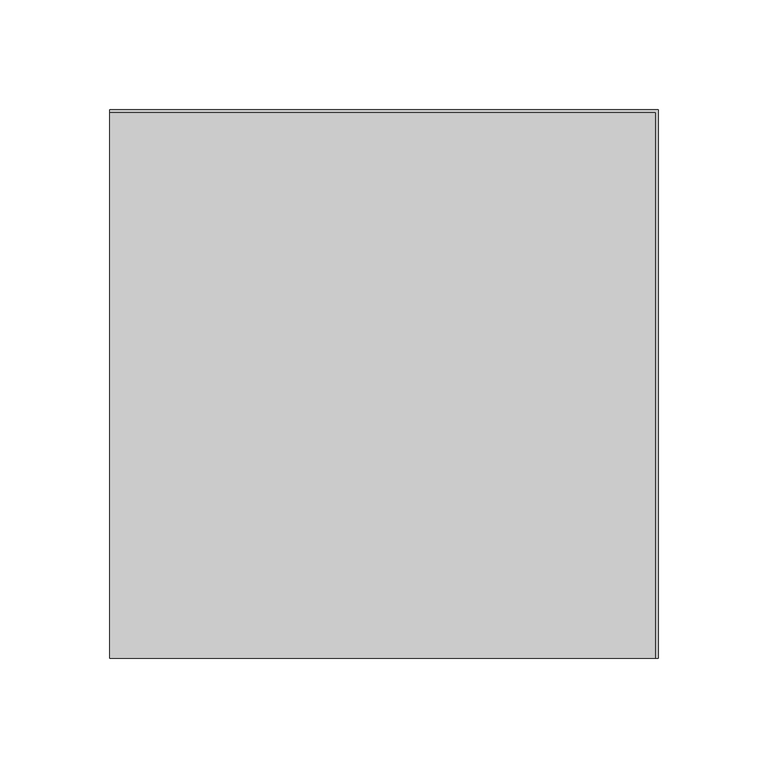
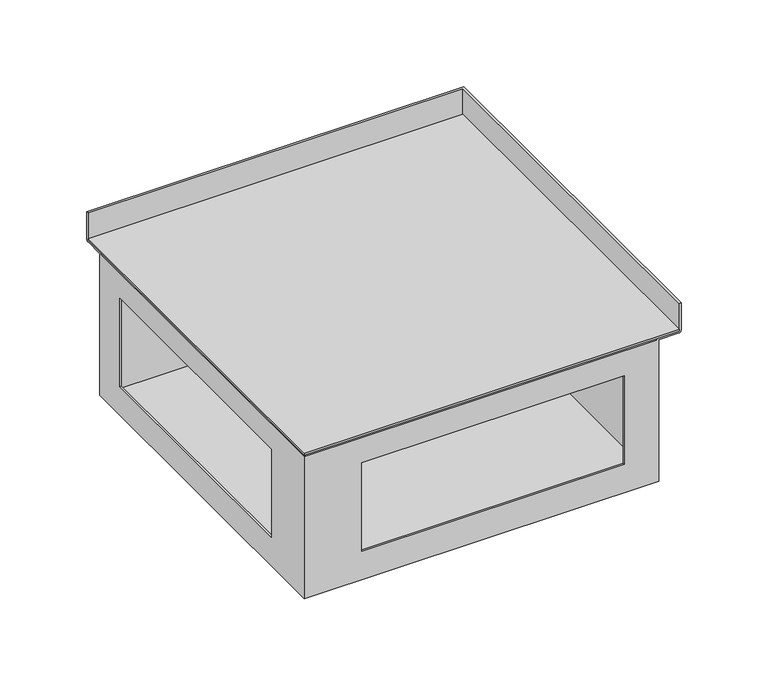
"""IFC4 building model written with IfcOpenShell, lengths in millimetres: proxy geometry, TECHNO_Угловой элемент_KVU : 250_120_90°."""

import ifcopenshell
import ifcopenshell.guid

model = None  # the IFC model being written
_history = None  # IfcOwnerHistory: only IFC2X3 demands one
_inside = {}  # id of a spatial element -> (the spatial element, [elements in it])
_under = {}  # id of a project, library or spatial element -> (it, [spatial elements below it])
_declared = {}  # id of a project -> (the project, [libraries it declares])
_typed = {}  # id of a type object -> (the type object, [elements of that type])
_made_of = {}  # id of a material, layer set ... -> (it, [elements and type objects made of it])


def new_model(schema):
    """Start an empty IFC model of exactly this schema.

    Asked for "IFC4X3", IfcOpenShell would pick the latest addendum, in which some entities
    have other attributes; the version numbers below select the first issue.
    IFC2X3 requires an IfcOwnerHistory on every rooted entity: one is made here for all.
    """
    global model, _history
    if schema == "IFC4X3":
        model = ifcopenshell.file(schema_version=(4, 3, 0, 0))
    else:
        model = ifcopenshell.file(schema=schema)
    _inside.clear()
    _under.clear()
    _declared.clear()
    _typed.clear()
    _made_of.clear()
    _history = None
    if model.schema == "IFC2X3":
        org = make("IfcOrganization", Name="unknown")
        user = make(
            "IfcPersonAndOrganization",
            ThePerson=make("IfcPerson", FamilyName="unknown"),
            TheOrganization=org,
        )
        app = make(
            "IfcApplication",
            ApplicationDeveloper=org,
            Version="unknown",
            ApplicationFullName="unknown",
            ApplicationIdentifier="unknown",
        )
        _history = make(
            "IfcOwnerHistory",
            OwningUser=user,
            OwningApplication=app,
            ChangeAction="ADDED",
            CreationDate=0,
        )
    return model


def make(cls, **values):
    """One entity of the class cls with the attributes given. An attribute that is None is left unset."""
    return model.create_entity(
        cls, **{name: value for name, value in values.items() if value is not None}
    )


def rooted(cls, **values):
    """An entity with a GlobalId (a new one), such as an element, a storey or a relation."""
    return make(cls, GlobalId=ifcopenshell.guid.new(), OwnerHistory=_history, **values)


def si_unit(unit_type, name, prefix=None):
    """IfcSIUnit, for example si_unit("LENGTHUNIT", "METRE", prefix="MILLI")."""
    return make("IfcSIUnit", UnitType=unit_type, Prefix=prefix, Name=name)


def assignment(units):
    """IfcUnitAssignment: the units of a project."""
    return None if units is None else make("IfcUnitAssignment", Units=units)


def point(xyz):
    """IfcCartesianPoint."""
    return None if xyz is None else make("IfcCartesianPoint", Coordinates=xyz)


def direction(xyz):
    """IfcDirection."""
    return None if xyz is None else make("IfcDirection", DirectionRatios=xyz)


def frame(location, z_axis=None, x_axis=None):
    """IfcAxis2Placement3D, a coordinate frame: its origin and axes. An axis left out is left unset."""
    return make(
        "IfcAxis2Placement3D",
        Location=point(location),
        Axis=direction(z_axis),
        RefDirection=direction(x_axis),
    )


def origin():
    """The frame at (0, 0, 0) with its axes left unset."""
    return frame((0.0, 0.0, 0.0))


def place(relative_to, where):
    """IfcLocalPlacement: puts the frame where relative to a parent placement (None: the world)."""
    return make(
        "IfcLocalPlacement", PlacementRelTo=relative_to, RelativePlacement=where
    )


def context(
    kind, dimensions, precision=None, world=None, true_north=None, identifier=None
):
    """IfcGeometricRepresentationContext, for example the 3D "Model" context."""
    return make(
        "IfcGeometricRepresentationContext",
        ContextIdentifier=identifier,
        ContextType=kind,
        CoordinateSpaceDimension=dimensions,
        Precision=precision,
        WorldCoordinateSystem=world,
        TrueNorth=true_north,
    )


def project(units=None, contexts=None):
    """IfcProject with its units and contexts."""
    return rooted(
        "IfcProject",
        Name="project",
        RepresentationContexts=contexts,
        UnitsInContext=assignment(units),
    )


def spatial(cls, under=None, at=None, **own):
    """A site, building, storey or space (cls), placed at a placement, below another one or the project."""
    s = rooted(cls, ObjectPlacement=at, **own)
    if under is not None:
        _under.setdefault(under.id(), (under, []))[1].append(s)
    return s


def polyline(points):
    """IfcPolyline through the points."""
    return make("IfcPolyline", Points=[point(p) for p in points])


def circle_curve(where, radius):
    """IfcCircle in the frame where."""
    return make("IfcCircle", Position=where, Radius=radius)


def ellipse_curve(where, semi_axis1, semi_axis2):
    """IfcEllipse in the frame where."""
    return make(
        "IfcEllipse", Position=where, SemiAxis1=semi_axis1, SemiAxis2=semi_axis2
    )


def outline(outer, holes=None, kind="AREA"):
    """IfcArbitraryClosedProfileDef: a profile drawn as a closed curve; with holes, ...WithVoids."""
    if holes is None:
        return make("IfcArbitraryClosedProfileDef", ProfileType=kind, OuterCurve=outer)
    return make(
        "IfcArbitraryProfileDefWithVoids",
        ProfileType=kind,
        OuterCurve=outer,
        InnerCurves=holes,
    )


def extrude(swept, where, along, depth):
    """IfcExtrudedAreaSolid: the profile swept, set in the frame where, extruded along a direction by depth."""
    return make(
        "IfcExtrudedAreaSolid",
        SweptArea=swept,
        Position=where,
        ExtrudedDirection=direction(along),
        Depth=depth,
    )


def shape(context_of_items, identifier, shape_type, items):
    """IfcShapeRepresentation: the items that make up one representation, for example the "Body"."""
    return make(
        "IfcShapeRepresentation",
        ContextOfItems=context_of_items,
        RepresentationIdentifier=identifier,
        RepresentationType=shape_type,
        Items=items,
    )


def source(mapping_origin, context_of_items, identifier, shape_type, items):
    """IfcRepresentationMap: a shape defined once, which mapped items show again and again."""
    return make(
        "IfcRepresentationMap",
        MappingOrigin=mapping_origin,
        MappedRepresentation=shape(context_of_items, identifier, shape_type, items),
    )


def transform(
    local_origin,
    x_axis=None,
    y_axis=None,
    z_axis=None,
    scale=None,
    scale2=None,
    scale3=None,
    uniform=True,
):
    """IfcCartesianTransformationOperator3D, or its non-uniform kind. x_axis, y_axis, z_axis: its Axis1, 2, 3."""
    if uniform:
        return make(
            "IfcCartesianTransformationOperator3D",
            Axis1=direction(x_axis),
            Axis2=direction(y_axis),
            LocalOrigin=point(local_origin),
            Scale=scale,
            Axis3=direction(z_axis),
        )
    return make(
        "IfcCartesianTransformationOperator3DnonUniform",
        Axis1=direction(x_axis),
        Axis2=direction(y_axis),
        LocalOrigin=point(local_origin),
        Scale=scale,
        Axis3=direction(z_axis),
        Scale2=scale2,
        Scale3=scale3,
    )


def mapped(mapping_source, mapping_target):
    """IfcMappedItem: shows the shape of a source again, moved by a transform."""
    return make(
        "IfcMappedItem", MappingSource=mapping_source, MappingTarget=mapping_target
    )


def made_of(thing, what):
    """Note that an element or type object is made of a material, layer set ...; save() writes the relation."""
    if what is not None:
        _made_of.setdefault(what.id(), (what, []))[1].append(thing)
    return thing


def element(
    cls,
    number,
    at=None,
    inside=None,
    cuts=None,
    type_object=None,
    material=None,
    context=None,
    identifier="Body",
    shape_type=None,
    held_by="IfcProductDefinitionShape",
    body=None,
    shapes=None,
    **own,
):
    """One element of the class cls, such as IfcWall. Its Tag is "e" and its number.

    at: its placement. inside: the storey or other place that contains it. cuts: it is an
    opening in that element (IfcRelVoidsElement). A single representation is given by context,
    identifier, shape_type and body (its items); several are given by shapes. held_by: the class
    of the entity that holds the representations. save() writes the other relations.
    """
    e = rooted(cls, Tag="e%d" % number, ObjectPlacement=at, **own)
    if body is not None:
        shapes = [shape(context, identifier, shape_type, body)]
    if shapes is not None:
        e.Representation = make(held_by, Representations=shapes)
    if inside is not None:
        _inside.setdefault(inside.id(), (inside, []))[1].append(e)
    if cuts is not None:
        rooted(
            "IfcRelVoidsElement", RelatingBuildingElement=cuts, RelatedOpeningElement=e
        )
    if type_object is not None:
        _typed.setdefault(type_object.id(), (type_object, []))[1].append(e)
    return made_of(e, material)


def aggregate(whole, parts):
    """IfcRelAggregates: a whole, such as a stair, and the parts it consists of."""
    return rooted("IfcRelAggregates", RelatingObject=whole, RelatedObjects=parts)


def save(model, path):
    """Write the relations noted so far, then the file.

    IfcRelAggregates (storeys below a building ...), IfcRelContainedInSpatialStructure (elements
    in a storey), IfcRelDefinesByType, IfcRelAssociatesMaterial and IfcRelDeclares: one each for
    every whole, place, type object, material and project.
    """
    for whole, parts in _under.values():
        aggregate(whole, parts)
    for where, things in _inside.values():
        rooted(
            "IfcRelContainedInSpatialStructure",
            RelatedElements=things,
            RelatingStructure=where,
        )
    for kind, things in _typed.values():
        rooted("IfcRelDefinesByType", RelatedObjects=things, RelatingType=kind)
    for what, things in _made_of.values():
        rooted("IfcRelAssociatesMaterial", RelatedObjects=things, RelatingMaterial=what)
    for by, libraries in _declared.values():
        rooted("IfcRelDeclares", RelatingContext=by, RelatedDefinitions=libraries)
    model.write(path)


def plane_surface(at):
    """IfcPlane: the flat surface through the origin of the frame at, square to its z axis."""
    return make("IfcPlane", Position=at)


def cylinder_surface(at, radius):
    """IfcCylindricalSurface: all points at the distance radius from the z axis of the frame at."""
    return make("IfcCylindricalSurface", Position=at, Radius=radius)


def advanced_brep(points, edges, surfaces, faces):
    """IfcAdvancedBrep: a solid bounded by faces that lie on surfaces and meet in shared edges.

    An edge is (start, end): straight between two places in points (the first is 0);
    or (start, end, curve); or (start, end, curve, False) where it runs against its curve.
    A face is (place in surfaces, loops), or (place, loops, False) where it looks against
    its surface's normal. A loop lists edges by number (the first is 1), with a minus sign
    where the edge is run from its end to its start. The first loop is the outer one.
    """
    corners = [point(p) for p in points]
    vertices = [make("IfcVertexPoint", VertexGeometry=c) for c in corners]
    made = []
    for start, end, *more in edges:
        made.append(
            make(
                "IfcEdgeCurve",
                EdgeStart=vertices[start],
                EdgeEnd=vertices[end],
                EdgeGeometry=more[0] if more else make("IfcPolyline", Points=[corners[start], corners[end]]),
                SameSense=more[1] if len(more) > 1 else True,
            )
        )
    hull = []
    for where, loops, *sense in faces:
        bounds = []
        for j, loop in enumerate(loops):
            ring = [make("IfcOrientedEdge", EdgeElement=made[abs(k) - 1], Orientation=k > 0) for k in loop]
            bounds.append(
                make(
                    "IfcFaceOuterBound" if j == 0 else "IfcFaceBound",
                    Bound=make("IfcEdgeLoop", EdgeList=ring),
                    Orientation=True,
                )
            )
        hull.append(make("IfcAdvancedFace", Bounds=bounds, FaceSurface=surfaces[where], SameSense=sense[0] if sense else True))
    return make("IfcAdvancedBrep", Outer=make("IfcClosedShell", CfsFaces=hull))


def mechanical_equipment_f91bf6bd(model_context):
    return source(origin(), model_context, "Body", "SolidModel", [
        extrude(outline(polyline([(0.0, 123.8), (248.8, 123.8), (248.8, -125.0), (0.0, -125.0), (0.0, 123.8)])), frame((0.0, 0.0, -19.3), z_axis=(0.0, 0.0, 1.0), x_axis=(1.0, 0.0, 0.0)), (0.0, 0.0, 1.0), 1.2),
        advanced_brep(
        [(1.2, 109.0, -118.8), (1.2, -123.8, -118.8), (234.0, -123.8, -118.8), (234.0, 109.0, -118.8), (0.0, 110.2, -120.0), (235.2, 110.2, -120.0), (235.2, -125.0, -120.0), (0.0, -125.0, -120.0), (0.0, 110.2, -20.5), (0.0, -125.0, -20.5), (0.0, 109.0, -20.5), (0.0, 110.2, -19.3), (0.0, 123.8, -19.3), (0.0, 123.8, 0.0), (0.0, 125.0, 0.0), (0.0, 125.0, -19.3), (0.0, 123.8, -20.5), (0.0, -87.0, -38.0), (0.0, -87.0, -100.0), (0.0, 87.4, -100.0), (0.0, 87.4, -38.0), (235.2, -125.0, -20.5), (248.8, -125.0, -20.5), (250.0, -125.0, -19.3), (250.0, -125.0, 0.0), (248.8, -125.0, 0.0), (248.8, -125.0, -19.3), (235.2, -125.0, -19.3), (234.0, -125.0, -20.5), (38.0, -125.0, -100.0), (38.0, -125.0, -38.0), (212.4, -125.0, -38.0), (212.4, -125.0, -100.0), (235.2, 110.2, -20.5), (1.2, 110.2, -19.3), (1.2, -123.8, -19.3), (235.2, -123.8, -19.3), (248.8, 123.8, -19.3), (235.2, -109.0, -19.3), (16.0, -109.0, -19.3), (16.0, 110.2, -19.3), (235.2, 110.2, -19.3), (16.0, -109.0, -20.5), (16.0, 109.0, -20.5), (234.0, -109.0, -20.5), (234.0, -123.8, -20.5), (1.2, -123.8, -20.5), (1.2, 109.0, -20.5), (1.2, -87.0, -100.0), (1.2, -87.0, -38.0), (1.2, 87.4, -38.0), (1.2, 87.4, -100.0), (38.0, -123.8, -38.0), (38.0, -123.8, -100.0), (212.4, -123.8, -100.0), (212.4, -123.8, -38.0), (250.0, 125.0, -19.3), (250.0, 125.0, 0.0), (248.8, 123.8, 0.0), (248.8, 123.8, -20.5), (234.0, 109.0, -20.5)],
        [
            (0, 1),
            (1, 2),
            (2, 3),
            (3, 0),
            (4, 5),
            (5, 6),
            (6, 7),
            (7, 4),
            (8, 4),
            (7, 9),
            (9, 10),
            (10, 11, circle_curve(frame((0.0, 110.2, -20.5), z_axis=(-1.0, 0.0, 0.0), x_axis=(0.0, -1.0, 0.0)), 1.2)),
            (11, 12),
            (12, 13),
            (13, 14),
            (14, 15),
            (15, 16, circle_curve(frame((0.0, 123.8, -19.3), z_axis=(-1.0, 0.0, 0.0), x_axis=(0.0, -1.0, 0.0)), 1.2)),
            (16, 8),
            (17, 18),
            (18, 19),
            (19, 20),
            (20, 17),
            (6, 21),
            (21, 22),
            (22, 23, circle_curve(frame((248.8, -125.0, -19.3), z_axis=(0.0, -1.0, 0.0), x_axis=(-1.0, 0.0, 0.0)), 1.2)),
            (23, 24),
            (24, 25),
            (25, 26),
            (26, 27),
            (27, 28, circle_curve(frame((235.2, -125.0, -20.5), z_axis=(0.0, -1.0, 0.0), x_axis=(-1.0, 0.0, 0.0)), 1.2)),
            (28, 9),
            (29, 30),
            (30, 31),
            (31, 32),
            (32, 29),
            (8, 33),
            (33, 5),
            (33, 21),
            (34, 35),
            (35, 36),
            (36, 27),
            (26, 37),
            (37, 12),
            (11, 34),
            (38, 39),
            (39, 40),
            (40, 41),
            (41, 38),
            (39, 42),
            (42, 43),
            (43, 40, circle_curve(frame((16.0, 110.2, -20.5), z_axis=(-1.0, 0.0, 0.0), x_axis=(0.0, -1.0, 0.0)), 1.2)),
            (38, 44, circle_curve(frame((235.2, -109.0, -20.5), z_axis=(0.0, -1.0, 0.0), x_axis=(-1.0, 0.0, 0.0)), 1.2)),
            (44, 42),
            (44, 45),
            (45, 46),
            (46, 47),
            (47, 43),
            (46, 1),
            (0, 47),
            (48, 49),
            (49, 50),
            (50, 51),
            (51, 48),
            (45, 2),
            (52, 53),
            (53, 54),
            (54, 55),
            (55, 52),
            (34, 10, ellipse_curve(frame((1.2, 110.2, -20.5), z_axis=(0.7071067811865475, -0.7071067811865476, 0.0), x_axis=(0.7071067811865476, 0.7071067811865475, 0.0)), 1.6970563, 1.2)),
            (9, 35, ellipse_curve(frame((1.2, -123.8, -20.5), z_axis=(-0.7071067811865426, 0.7071067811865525, 0.0), x_axis=(0.7071067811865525, 0.7071067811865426, 0.0)), 1.6970563, 1.2)),
            (28, 36, ellipse_curve(frame((235.2, -123.8, -20.5), z_axis=(-0.707106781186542, 0.7071067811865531, 0.0), x_axis=(-0.7071067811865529, -0.707106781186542, 0.0)), 1.6970563, 1.2)),
            (23, 56),
            (56, 57),
            (57, 24),
            (57, 14),
            (13, 58),
            (58, 25),
            (58, 37),
            (16, 59),
            (59, 22),
            (59, 56, ellipse_curve(frame((248.8, 123.8, -19.3), z_axis=(0.7071067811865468, -0.7071067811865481, 0.0), x_axis=(-0.7071067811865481, -0.7071067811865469, 0.0)), 1.6970563, 1.2)),
            (56, 15),
            (41, 60, ellipse_curve(frame((235.2, 110.2, -20.5), z_axis=(0.7071067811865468, -0.7071067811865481, 0.0), x_axis=(-0.7071067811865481, -0.7071067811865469, 0.0)), 1.6970563, 1.2)),
            (60, 44),
            (60, 3),
            (43, 60),
            (48, 18),
            (17, 49),
            (51, 19),
            (50, 20),
            (52, 30),
            (29, 53),
            (55, 31),
            (54, 32),
        ],
        [
            plane_surface(frame((0.0, 109.0, -118.8), z_axis=(0.0, 0.0, 1.0), x_axis=(0.0, -1.0, 0.0))),
            plane_surface(frame((0.0, 109.0, -120.0), z_axis=(0.0, 0.0, -1.0), x_axis=(0.0, 1.0, 0.0))),
            plane_surface(frame((0.0, 109.0, -118.8), z_axis=(-1.0, 0.0, 0.0), x_axis=(0.0, 0.0, -1.0))),
            plane_surface(frame((0.0, -125.0, -118.8), z_axis=(0.0, -1.0, 0.0), x_axis=(0.0, 0.0, -1.0))),
            plane_surface(frame((0.0, 110.2, -120.0), z_axis=(0.0, 1.0, 0.0), x_axis=(0.0, 0.0, -1.0))),
            plane_surface(frame((235.2, -125.0, -120.0), z_axis=(1.0, 0.0, 0.0), x_axis=(0.0, 0.0, -1.0))),
            plane_surface(frame((1.2, 110.2, -19.3), z_axis=(0.0, 0.0, 1.0), x_axis=(0.0, -1.0, 0.0))),
            plane_surface(frame((16.0, 110.2, -19.3), z_axis=(1.0, 0.0, 0.0), x_axis=(0.0, -1.0, 0.0))),
            plane_surface(frame((16.0, -109.0, -19.3), z_axis=(0.0, 1.0, 0.0), x_axis=(1.0, 0.0, 0.0))),
            plane_surface(frame((16.0, 110.2, -20.5), z_axis=(0.0, 0.0, -1.0), x_axis=(0.0, -1.0, 0.0))),
            plane_surface(frame((1.2, 110.2, -20.5), z_axis=(1.0, 0.0, 0.0), x_axis=(0.0, -1.0, 0.0))),
            plane_surface(frame((1.2, -123.8, -20.5), z_axis=(0.0, 1.0, 0.0), x_axis=(1.0, 0.0, 0.0))),
            cylinder_surface(frame((1.2, 110.2, -20.5), z_axis=(0.0, 1.0, 0.0), x_axis=(-1.0, 0.0, 0.0)), 1.2),
            cylinder_surface(frame((0.0, -123.8, -20.5), z_axis=(-1.0, 0.0, 0.0), x_axis=(0.0, -1.0, 0.0)), 1.2),
            plane_surface(frame((250.0, -125.0, -19.3), z_axis=(1.0, 0.0, 0.0), x_axis=(0.0, 1.0, 0.0))),
            plane_surface(frame((250.0, -125.0, 0.0), z_axis=(0.0, 0.0, 1.0), x_axis=(0.0, 1.0, 0.0))),
            plane_surface(frame((248.8, -125.0, 0.0), z_axis=(-1.0, 0.0, 0.0), x_axis=(0.0, 1.0, 0.0))),
            plane_surface(frame((235.2, -125.0, -20.5), z_axis=(0.0, 0.0, -1.0), x_axis=(0.0, 1.0, 0.0))),
            cylinder_surface(frame((248.8, -125.0, -19.3), z_axis=(0.0, -1.0, 0.0), x_axis=(-1.0, 0.0, 0.0)), 1.2),
            plane_surface(frame((250.0, 125.0, -19.3), z_axis=(0.0, 1.0, 0.0), x_axis=(-1.0, 0.0, 0.0))),
            plane_surface(frame((248.8, 123.8, 0.0), z_axis=(0.0, -1.0, 0.0), x_axis=(-1.0, 0.0, 0.0))),
            cylinder_surface(frame((125.0, 123.8, -19.3), z_axis=(1.0, 0.0, 0.0), x_axis=(0.0, -1.0, 0.0)), 1.2),
            cylinder_surface(frame((235.2, -125.0, -20.5), z_axis=(0.0, -1.0, 0.0), x_axis=(-1.0, 0.0, 0.0)), 1.2),
            plane_surface(frame((234.0, -125.0, -20.5), z_axis=(-1.0, 0.0, 0.0), x_axis=(0.0, 1.0, 0.0))),
            cylinder_surface(frame((125.0, 110.2, -20.5), z_axis=(1.0, 0.0, 0.0), x_axis=(0.0, -1.0, 0.0)), 1.2),
            plane_surface(frame((234.0, 109.0, -20.5), z_axis=(0.0, -1.0, 0.0), x_axis=(-1.0, 0.0, 0.0))),
            plane_surface(frame((1.2, -87.0, -38.0), z_axis=(0.0, 1.0, 0.0), x_axis=(-1.0, 0.0, 0.0))),
            plane_surface(frame((1.2, -87.0, -100.0), z_axis=(0.0, 0.0, 1.0), x_axis=(-1.0, 0.0, 0.0))),
            plane_surface(frame((1.2, 87.4, -100.0), z_axis=(0.0, -1.0, 0.0), x_axis=(-1.0, 0.0, 0.0))),
            plane_surface(frame((1.2, 87.4, -38.0), z_axis=(0.0, 0.0, -1.0), x_axis=(-1.0, 0.0, 0.0))),
            plane_surface(frame((38.0, -123.8, -100.0), z_axis=(1.0, 0.0, 0.0), x_axis=(0.0, -1.0, 0.0))),
            plane_surface(frame((38.0, -123.8, -38.0), z_axis=(0.0, 0.0, -1.0), x_axis=(0.0, -1.0, 0.0))),
            plane_surface(frame((212.4, -123.8, -38.0), z_axis=(-1.0, 0.0, 0.0), x_axis=(0.0, -1.0, 0.0))),
            plane_surface(frame((212.4, -123.8, -100.0), z_axis=(0.0, 0.0, 1.0), x_axis=(0.0, -1.0, 0.0))),
        ],
        [
            (0, [[1, 2, 3, 4]]),
            (1, [[5, 6, 7, 8]]),
            (2, [[9, -8, 10, 11, 12, 13, 14, 15, 16, 17, 18], [19, 20, 21, 22]]),
            (3, [[23, 24, 25, 26, 27, 28, 29, 30, 31, -10, -7], [32, 33, 34, 35]]),
            (4, [[-9, 36, 37, -5]]),
            (5, [[-23, -6, -37, 38]]),
            (6, [[39, 40, 41, -29, 42, 43, -13, 44], [45, 46, 47, 48]]),
            (7, [[-46, 49, 50, 51]]),
            (8, [[-45, 52, 53, -49]]),
            (9, [[-50, -53, 54, 55, 56, 57]]),
            (10, [[58, -1, 59, -56], [60, 61, 62, 63]]),
            (11, [[-58, -55, 64, -2], [65, 66, 67, 68]]),
            (12, [[-39, 69, -11, 70]]),
            (13, [[-40, -70, -31, 71]]),
            (14, [[-26, 72, 73, 74]]),
            (15, [[-27, -74, 75, -15, 76, 77]]),
            (16, [[-28, -77, 78, -42]]),
            (17, [[-24, -38, -36, -18, 79, 80]]),
            (18, [[-25, -80, 81, -72]]),
            (19, [[-73, 82, -16, -75]]),
            (20, [[-76, -14, -43, -78]]),
            (21, [[-79, -17, -82, -81]]),
            (22, [[-30, -41, -71]]),
            (22, [[83, 84, -52, -48]]),
            (23, [[85, -3, -64, -54, -84]]),
            (24, [[-12, -69, -44]]),
            (24, [[-83, -47, -51, 86]]),
            (25, [[-85, -86, -57, -59, -4]]),
            (26, [[87, -19, 88, -60]]),
            (27, [[-87, -63, 89, -20]]),
            (28, [[-89, -62, 90, -21]]),
            (29, [[-88, -22, -90, -61]]),
            (30, [[91, -32, 92, -65]]),
            (31, [[-91, -68, 93, -33]]),
            (32, [[-93, -67, 94, -34]]),
            (33, [[-92, -35, -94, -66]]),
        ],
    ),
    ])


if __name__ == "__main__":
    model = new_model("IFC4")
    model_context = context("Model", 3, world=origin())
    ifc_project = project(units=[si_unit("LENGTHUNIT", "METRE", prefix="MILLI")], contexts=[model_context])
    site = spatial("IfcSite", under=ifc_project)
    building = spatial("IfcBuilding", under=site)
    placement = place(None, origin())
    mechanical_equipment_shape = mechanical_equipment_f91bf6bd(model_context)
    element("IfcBuildingElementProxy", 1, Name="TECHNO_Угловой элемент_KVU : 250_120_90°", ObjectType="TECHNO_Угловой элемент_KVU : 250_120_90°", at=placement, inside=building, context=model_context, shape_type="MappedRepresentation", body=[
        mapped(mechanical_equipment_shape, transform((0.0, 0.0, 0.0), x_axis=(1.0, 0.0, 0.0), y_axis=(0.0, 1.0, 0.0), z_axis=(0.0, 0.0, 1.0))),
    ])
    save(model, "model.ifc")
